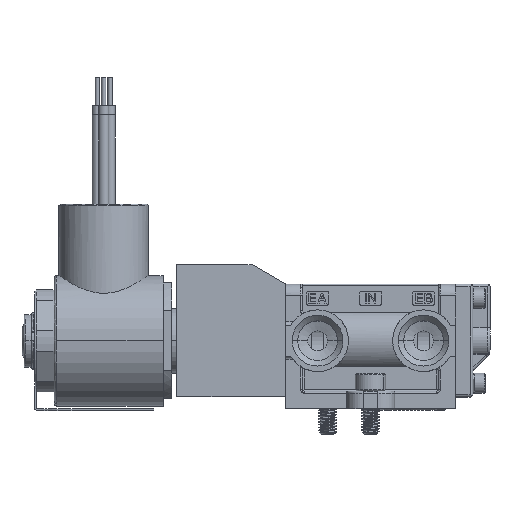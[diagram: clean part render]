
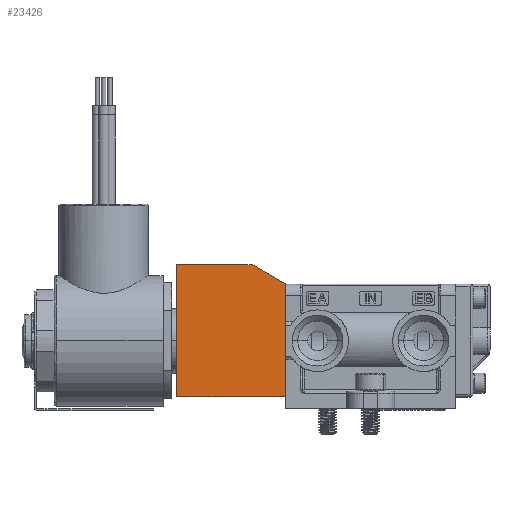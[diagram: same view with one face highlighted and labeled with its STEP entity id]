
A CAD part, top view. The second image highlights one B-rep face of the part: STEP entity #23426.
In plain terms, the highlighted planar face has unit normal (0, 0, 1).
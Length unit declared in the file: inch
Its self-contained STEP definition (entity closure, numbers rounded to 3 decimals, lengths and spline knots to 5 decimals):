
#635 = ORIENTED_EDGE ( 'NONE', *, *, #42152, .F. ) ;
#1910 = ORIENTED_EDGE ( 'NONE', *, *, #8184, .F. ) ;
#3099 = ORIENTED_EDGE ( 'NONE', *, *, #38816, .F. ) ;
#3321 = VECTOR ( 'NONE', #43252, 39.37008 ) ;
#5695 = LINE ( 'NONE', #16450, #61592 ) ;
#6649 = EDGE_LOOP ( 'NONE', ( #55394, #635, #1910, #3099, #15861 ) ) ;
#7260 = VERTEX_POINT ( 'NONE', #26504 ) ;
#7758 = VERTEX_POINT ( 'NONE', #17852 ) ;
#8184 = EDGE_CURVE ( 'NONE', #54940, #7260, #49707, .T. ) ;
#8331 = LINE ( 'NONE', #28233, #3321 ) ;
#11810 = CARTESIAN_POINT ( 'NONE',  ( -1.2, -4.32187, -1.22035 ) ) ;
#12709 = DIRECTION ( 'NONE',  ( 0., 0., -1. ) ) ;
#14481 = DIRECTION ( 'NONE',  ( -1., 0., 0. ) ) ;
#15861 = ORIENTED_EDGE ( 'NONE', *, *, #33534, .F. ) ;
#16450 = CARTESIAN_POINT ( 'NONE',  ( -0.37, -1.85327, -1.22035 ) ) ;
#17852 = CARTESIAN_POINT ( 'NONE',  ( -0.37, -1.85327, -1.22035 ) ) ;
#18854 = CARTESIAN_POINT ( 'NONE',  ( -1.2, -1.85327, -1.22035 ) ) ;
#19650 = EDGE_CURVE ( 'NONE', #25123, #7758, #5695, .T. ) ;
#19858 = VECTOR ( 'NONE', #20965, 39.37008 ) ;
#20965 = DIRECTION ( 'NONE',  ( 0., 1., 0. ) ) ;
#23426 = ADVANCED_FACE ( 'NONE', ( #57441 ), #56476, .F. ) ;
#25123 = VERTEX_POINT ( 'NONE', #18854 ) ;
#26504 = CARTESIAN_POINT ( 'NONE',  ( -1.2, -3.30827, -1.22035 ) ) ;
#27429 = VERTEX_POINT ( 'NONE', #57029 ) ;
#28233 = CARTESIAN_POINT ( 'NONE',  ( -0.37, -1.85327, -1.22035 ) ) ;
#29832 = DIRECTION ( 'NONE',  ( 1., 0., 0. ) ) ;
#31641 = CARTESIAN_POINT ( 'NONE',  ( 1.77155, -4.32187, -1.22035 ) ) ;
#33534 = EDGE_CURVE ( 'NONE', #7758, #27429, #8331, .T. ) ;
#34715 = CARTESIAN_POINT ( 'NONE',  ( 0., -3.30827, -1.22035 ) ) ;
#35962 = LINE ( 'NONE', #11810, #19858 ) ;
#38816 = EDGE_CURVE ( 'NONE', #27429, #54940, #52217, .T. ) ;
#42152 = EDGE_CURVE ( 'NONE', #7260, #25123, #35962, .T. ) ;
#43252 = DIRECTION ( 'NONE',  ( 0.866, -0.5, 0. ) ) ;
#49393 = CARTESIAN_POINT ( 'NONE',  ( 1.77155, -3.30827, -1.22035 ) ) ;
#49707 = LINE ( 'NONE', #49393, #59298 ) ;
#51559 = DIRECTION ( 'NONE',  ( -1., 0., 0. ) ) ;
#52217 = LINE ( 'NONE', #62658, #58926 ) ;
#52782 = AXIS2_PLACEMENT_3D ( 'NONE', #31641, #12709, #51559 ) ;
#54940 = VERTEX_POINT ( 'NONE', #34715 ) ;
#55394 = ORIENTED_EDGE ( 'NONE', *, *, #19650, .F. ) ;
#56476 = PLANE ( 'NONE',  #52782 ) ;
#57029 = CARTESIAN_POINT ( 'NONE',  ( 0., -2.06688, -1.22035 ) ) ;
#57441 = FACE_OUTER_BOUND ( 'NONE', #6649, .T. ) ;
#58416 = DIRECTION ( 'NONE',  ( 0., -1., 0. ) ) ;
#58926 = VECTOR ( 'NONE', #58416, 39.37008 ) ;
#59298 = VECTOR ( 'NONE', #14481, 39.37008 ) ;
#61592 = VECTOR ( 'NONE', #29832, 39.37008 ) ;
#62658 = CARTESIAN_POINT ( 'NONE',  ( 0., -4.32187, -1.22035 ) ) ;
